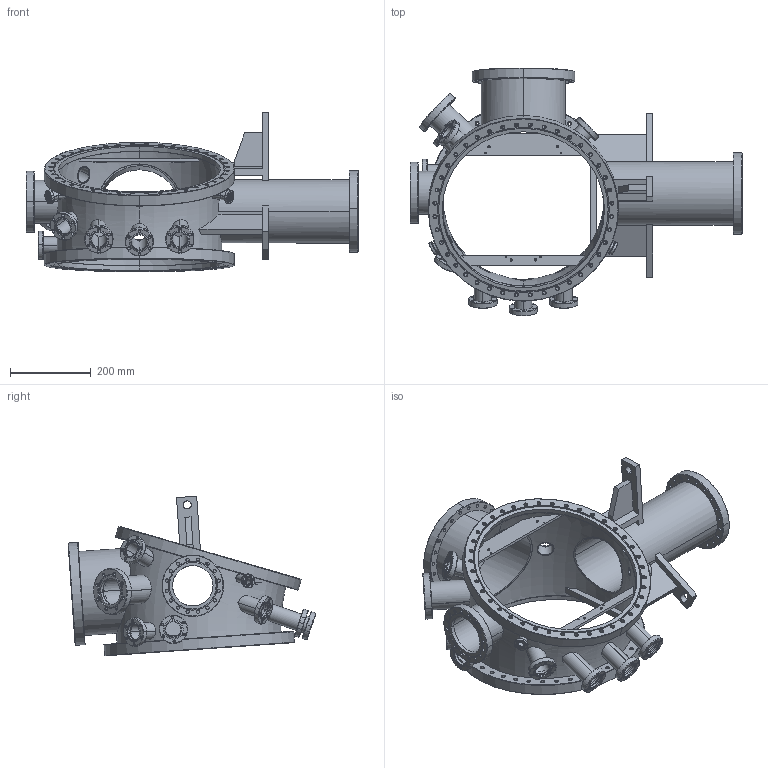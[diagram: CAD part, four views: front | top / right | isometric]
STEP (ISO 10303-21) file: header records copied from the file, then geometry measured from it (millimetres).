
FILE_DESCRIPTION (( 'STEP AP203' ), '1' );
FILE_NAME ('hhaxpes_camera01_r01.STEP', '2024-07-30T10:00:46', ( '' ), ( '' ), 'SwSTEP 2.0', 'SolidWorks 2021', '' );
FILE_SCHEMA (( 'CONFIG_CONTROL_DESIGN' ));
Length unit declared in the file: metre
Products named in the file (28): CF_150_ROT_156.stp; HAX3PES_TUBO042_01_AF3.stp; CF_40_ROT_42.stp; HAX3PES_TUBO156_01_AF1.stp; CF_38_ROTABILE.stp; HAX3PES_TUBO106_01_AF2.stp; haxpes_camera01_r01.stp; CF_63_FISSA.stp; HAX3PES_CF400_COPIA01.stp; HAX3PES_TUBO042_02_AF2.stp; HAX3PES_TUBO042_03_AF4.stp; hhaxpes_camera01_r01; HAX3PES_TUBO042_03_AF7.stp; HAX3PES_TUBO042_01_AF5.stp; CF_200_FISSA_210.stp; HAX3PES_TUBO070_01_AF1.stp; HAX3PES_CURVA01.stp; CF_100_ROT_106.stp; HAXPES_TUBO019_01_AF1.stp; CF_38_FISSA_FIL_TUBO42.stp; CF_16_FISSA.stp; HAX3PES_TUBO042_03_AF5.stp; HAX3PES_TUBO042_01_AF4.stp; HAX3PES_TUBO208_01_AF1.stp; CF_40_FISSA_FIL.stp; HAXPES_TUBO019_01_AF0.stp; HAX3PES_TUBO042_03_AF6.stp; CF_40_FISSA_42.stp
Assembly tree (32 placements, depth 3):
  hhaxpes_camera01_r01
    haxpes_camera01_r01.stp
      HAX3PES_CF400_COPIA01.stp  x2
      HAX3PES_CURVA01.stp
      CF_150_ROT_156.stp
      HAX3PES_TUBO156_01_AF1.stp
      CF_200_FISSA_210.stp
      HAX3PES_TUBO208_01_AF1.stp
      CF_63_FISSA.stp
      HAX3PES_TUBO070_01_AF1.stp
      CF_100_ROT_106.stp
      CF_38_ROTABILE.stp  x3
      HAX3PES_TUBO042_03_AF6.stp
      HAX3PES_TUBO042_03_AF7.stp
      CF_38_FISSA_FIL_TUBO42.stp
      HAX3PES_TUBO106_01_AF2.stp
      HAX3PES_TUBO042_01_AF4.stp
      CF_40_FISSA_42.stp
      HAX3PES_TUBO042_03_AF5.stp
      CF_40_ROT_42.stp  x2
      HAX3PES_TUBO042_01_AF3.stp
      HAX3PES_TUBO042_03_AF4.stp
      HAX3PES_TUBO042_02_AF2.stp
      CF_40_FISSA_FIL.stp
      HAX3PES_TUBO042_01_AF5.stp
      CF_16_FISSA.stp  x2
      HAXPES_TUBO019_01_AF0.stp
      HAXPES_TUBO019_01_AF1.stp
Bounding box: 820 x 612.16 x 394.31 mm (x, y, z)
Volume: 2137630.6 mm3; surface area: 2145600.6 mm2
Topology: 33 solids, 141 shells, 1194 faces, 3112 edges, 2024 vertices
Faces by surface type: cylinder 895, cone 142, plane 138, torus 19
Entity records: 47404 total; most frequent: CARTESIAN_POINT 22526, DIRECTION 4558, ORIENTED_EDGE 4232, EDGE_CURVE 2240, AXIS2_PLACEMENT_3D 1937, VERTEX_POINT 1458, EDGE_LOOP 1288, CIRCLE 1038
